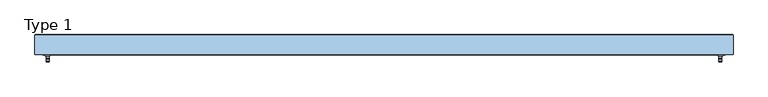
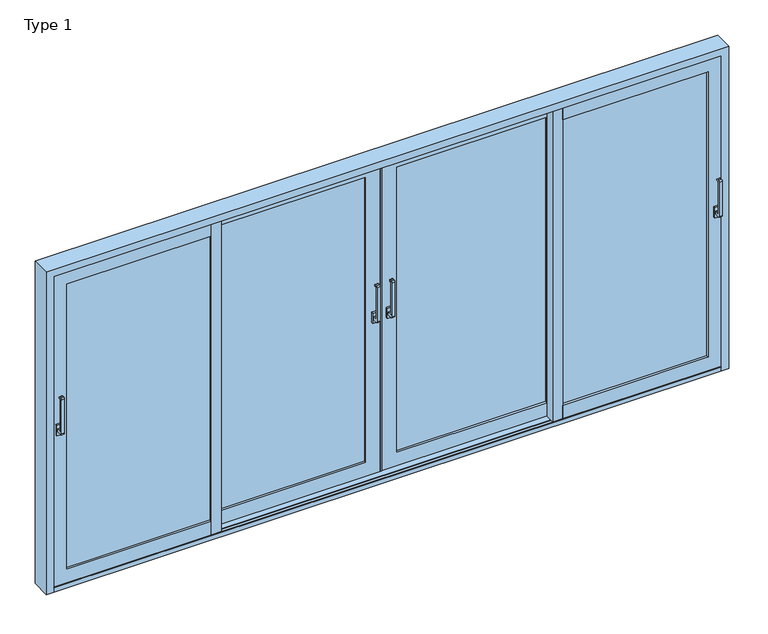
"""IFC4 building model written with IfcOpenShell, lengths in millimetres: window geometry, ETEM_E50_Quadruple_Lift_Sliding_NI_FR : Type 1."""

from ifc_helpers import new_model, si_unit, point, frame, frame_2d, origin, place, context, project, spatial, polyline, circle_curve, trimmed, segment, composite_curve, outline, extrude, faceted_brep, source, transform, mapped, element, save


def type_1_93d10275(model_context):
    return source(origin(), model_context, "Body", "SolidModel", [
        extrude(outline(composite_curve([segment(polyline([(-28.6518056, 1090.0), (-60.2254904, 1090.0)]), True, "CONTINUOUS"), segment(trimmed(circle_curve(frame_2d((-60.2254904, 1098.4263152)), 8.4263152), [point((-60.2254904, 1090.0))], [point((-68.6518056, 1098.4263152))], False, "CARTESIAN"), True, "CONTINUOUS"), segment(polyline([(-68.6518056, 1098.4263152), (-68.6518056, 1331.5736848)]), True, "CONTINUOUS"), segment(trimmed(circle_curve(frame_2d((-60.2254904, 1331.5736848)), 8.4263152), [point((-68.6518056, 1331.5736848))], [point((-60.2254904, 1340.0))], False, "CARTESIAN"), True, "CONTINUOUS"), segment(polyline([(-60.2254904, 1340.0), (-48.6518056, 1340.0)]), True, "CONTINUOUS"), segment(trimmed(circle_curve(frame_2d((-48.6518056, 1335.0)), 5.0), [point((-48.6518056, 1340.0))], [point((-48.6518056, 1330.0))], False, "CARTESIAN"), True, "CONTINUOUS"), segment(polyline([(-48.6518056, 1330.0), (-55.1162717, 1330.0)]), True, "CONTINUOUS"), segment(trimmed(circle_curve(frame_2d((-55.1162717, 1326.4644661)), 3.5355339), [point((-55.1162717, 1330.0))], [point((-58.6518056, 1326.4644661))], True, "CARTESIAN"), True, "CONTINUOUS"), segment(polyline([(-58.6518056, 1326.4644661), (-58.6518056, 1113.5355339)]), True, "CONTINUOUS"), segment(trimmed(circle_curve(frame_2d((-55.1162717, 1113.5355339)), 3.5355339), [point((-58.6518056, 1113.5355339))], [point((-55.1162717, 1110.0))], True, "CARTESIAN"), True, "CONTINUOUS"), segment(polyline([(-55.1162717, 1110.0), (-28.6518056, 1110.0), (-28.6518056, 1090.0)]), True, "CONTINUOUS")], self_intersect=False)), frame((2109.999965, 0.0, 0.0), z_axis=(1.0, 0.0, 0.0), x_axis=(0.0, 1.0, 0.0)), (0.0, 0.0, 1.0), 20.0),
        extrude(outline(polyline([(2104.999965, -28.6518056), (2104.999965, -15.6518056), (2134.999965, -15.6518056), (2134.999965, -28.6518056), (2104.999965, -28.6518056)])), frame((0.0, 0.0, 1065.0), z_axis=(0.0, 0.0, 1.0), x_axis=(1.0, 0.0, 0.0)), (0.0, 0.0, 1.0), 70.0),
        extrude(outline(composite_curve([segment(polyline([(-28.6518056, 1090.0), (-60.2254904, 1090.0)]), True, "CONTINUOUS"), segment(trimmed(circle_curve(frame_2d((-60.2254904, 1098.4263152)), 8.4263152), [point((-60.2254904, 1090.0))], [point((-68.6518056, 1098.4263152))], False, "CARTESIAN"), True, "CONTINUOUS"), segment(polyline([(-68.6518056, 1098.4263152), (-68.6518056, 1331.5736848)]), True, "CONTINUOUS"), segment(trimmed(circle_curve(frame_2d((-60.2254904, 1331.5736848)), 8.4263152), [point((-68.6518056, 1331.5736848))], [point((-60.2254904, 1340.0))], False, "CARTESIAN"), True, "CONTINUOUS"), segment(polyline([(-60.2254904, 1340.0), (-48.6518056, 1340.0)]), True, "CONTINUOUS"), segment(trimmed(circle_curve(frame_2d((-48.6518056, 1335.0)), 5.0), [point((-48.6518056, 1340.0))], [point((-48.6518056, 1330.0))], False, "CARTESIAN"), True, "CONTINUOUS"), segment(polyline([(-48.6518056, 1330.0), (-55.1162717, 1330.0)]), True, "CONTINUOUS"), segment(trimmed(circle_curve(frame_2d((-55.1162717, 1326.4644661)), 3.5355339), [point((-55.1162717, 1330.0))], [point((-58.6518056, 1326.4644661))], True, "CARTESIAN"), True, "CONTINUOUS"), segment(polyline([(-58.6518056, 1326.4644661), (-58.6518056, 1113.5355339)]), True, "CONTINUOUS"), segment(trimmed(circle_curve(frame_2d((-55.1162717, 1113.5355339)), 3.5355339), [point((-58.6518056, 1113.5355339))], [point((-55.1162717, 1110.0))], True, "CARTESIAN"), True, "CONTINUOUS"), segment(polyline([(-55.1162717, 1110.0), (-28.6518056, 1110.0), (-28.6518056, 1090.0)]), True, "CONTINUOUS")], self_intersect=False)), frame((-2129.999965, 0.0, 0.0), z_axis=(1.0, 0.0, 0.0), x_axis=(0.0, 1.0, 0.0)), (0.0, 0.0, 1.0), 20.0),
        extrude(outline(polyline([(-2134.999965, -28.6518056), (-2134.999965, -15.6518056), (-2104.999965, -15.6518056), (-2104.999965, -28.6518056), (-2134.999965, -28.6518056)])), frame((0.0, 0.0, 1065.0), z_axis=(0.0, 0.0, 1.0), x_axis=(1.0, 0.0, 0.0)), (0.0, 0.0, 1.0), 70.0),
        extrude(outline(composite_curve([segment(polyline([(36.3364319, 1090.0), (4.7627471, 1090.0)]), True, "CONTINUOUS"), segment(trimmed(circle_curve(frame_2d((4.7627471, 1098.4263152)), 8.4263152), [point((4.7627471, 1090.0))], [point((-3.6635681, 1098.4263152))], False, "CARTESIAN"), True, "CONTINUOUS"), segment(polyline([(-3.6635681, 1098.4263152), (-3.6635681, 1331.5736848)]), True, "CONTINUOUS"), segment(trimmed(circle_curve(frame_2d((4.7627471, 1331.5736848)), 8.4263152), [point((-3.6635681, 1331.5736848))], [point((4.7627471, 1340.0))], False, "CARTESIAN"), True, "CONTINUOUS"), segment(polyline([(4.7627471, 1340.0), (16.3364319, 1340.0)]), True, "CONTINUOUS"), segment(trimmed(circle_curve(frame_2d((16.3364319, 1335.0)), 5.0), [point((16.3364319, 1340.0))], [point((16.3364319, 1330.0))], False, "CARTESIAN"), True, "CONTINUOUS"), segment(polyline([(16.3364319, 1330.0), (9.8719658, 1330.0)]), True, "CONTINUOUS"), segment(trimmed(circle_curve(frame_2d((9.8719658, 1326.4644661)), 3.5355339), [point((9.8719658, 1330.0))], [point((6.3364319, 1326.4644661))], True, "CARTESIAN"), True, "CONTINUOUS"), segment(polyline([(6.3364319, 1326.4644661), (6.3364319, 1113.5355339)]), True, "CONTINUOUS"), segment(trimmed(circle_curve(frame_2d((9.8719658, 1113.5355339)), 3.5355339), [point((6.3364319, 1113.5355339))], [point((9.8719658, 1110.0))], True, "CARTESIAN"), True, "CONTINUOUS"), segment(polyline([(9.8719658, 1110.0), (36.3364319, 1110.0), (36.3364319, 1090.0)]), True, "CONTINUOUS")], self_intersect=False)), frame((-57.5, 0.0, 0.0), z_axis=(1.0, 0.0, 0.0), x_axis=(0.0, 1.0, 0.0)), (0.0, 0.0, 1.0), 20.0),
        extrude(outline(polyline([(-62.5, 36.3364319), (-62.5, 49.3364319), (-32.5, 49.3364319), (-32.5, 36.3364319), (-62.5, 36.3364319)])), frame((0.0, 0.0, 1065.0), z_axis=(0.0, 0.0, 1.0), x_axis=(1.0, 0.0, 0.0)), (0.0, 0.0, 1.0), 70.0),
        extrude(outline(composite_curve([segment(polyline([(36.3364319, 1090.0), (4.7627471, 1090.0)]), True, "CONTINUOUS"), segment(trimmed(circle_curve(frame_2d((4.7627471, 1098.4263152)), 8.4263152), [point((4.7627471, 1090.0))], [point((-3.6635681, 1098.4263152))], False, "CARTESIAN"), True, "CONTINUOUS"), segment(polyline([(-3.6635681, 1098.4263152), (-3.6635681, 1331.5736848)]), True, "CONTINUOUS"), segment(trimmed(circle_curve(frame_2d((4.7627471, 1331.5736848)), 8.4263152), [point((-3.6635681, 1331.5736848))], [point((4.7627471, 1340.0))], False, "CARTESIAN"), True, "CONTINUOUS"), segment(polyline([(4.7627471, 1340.0), (16.3364319, 1340.0)]), True, "CONTINUOUS"), segment(trimmed(circle_curve(frame_2d((16.3364319, 1335.0)), 5.0), [point((16.3364319, 1340.0))], [point((16.3364319, 1330.0))], False, "CARTESIAN"), True, "CONTINUOUS"), segment(polyline([(16.3364319, 1330.0), (9.8719658, 1330.0)]), True, "CONTINUOUS"), segment(trimmed(circle_curve(frame_2d((9.8719658, 1326.4644661)), 3.5355339), [point((9.8719658, 1330.0))], [point((6.3364319, 1326.4644661))], True, "CARTESIAN"), True, "CONTINUOUS"), segment(polyline([(6.3364319, 1326.4644661), (6.3364319, 1113.5355339)]), True, "CONTINUOUS"), segment(trimmed(circle_curve(frame_2d((9.8719658, 1113.5355339)), 3.5355339), [point((6.3364319, 1113.5355339))], [point((9.8719658, 1110.0))], True, "CARTESIAN"), True, "CONTINUOUS"), segment(polyline([(9.8719658, 1110.0), (36.3364319, 1110.0), (36.3364319, 1090.0)]), True, "CONTINUOUS")], self_intersect=False)), frame((37.5, 0.0, 0.0), z_axis=(1.0, 0.0, 0.0), x_axis=(0.0, 1.0, 0.0)), (0.0, 0.0, 1.0), 20.0),
        extrude(outline(polyline([(62.5, 36.3364319), (32.5, 36.3364319), (32.5, 49.3364319), (62.5, 49.3364319), (62.5, 36.3364319)])), frame((0.0, 0.0, 1065.0), z_axis=(0.0, 0.0, 1.0), x_axis=(1.0, 0.0, 0.0)), (0.0, 0.0, 1.0), 70.0),
        faceted_brep([(1067.5, 99.3364319, 121.470192), (1067.5, 49.3364319, 121.470192), (1067.5, 49.3364319, 29.970192), (1067.5, 54.0364319, 29.970192), (1067.5, 54.0364319, 59.170192), (1067.5, 94.6364319, 59.170192), (1067.5, 94.6364319, 29.970192), (1067.5, 99.3364319, 29.970192), (1067.5, 99.3364319, 2069.0), (1067.5, 99.3364319, 2160.5), (1067.5, 94.6364319, 2160.5), (1067.5, 94.6364319, 2131.3), (1067.5, 54.0364319, 2131.3), (1067.5, 54.0364319, 2160.5), (1067.5, 49.3364319, 2160.5), (1067.5, 49.3364319, 2069.0), (98.5, 99.3364319, 121.470192), (98.5, 49.3364319, 121.470192), (98.5, 49.3364319, 2069.0), (7.0, 49.3364319, 2160.5), (7.0, 49.3364319, 29.970192), (7.0, 54.0364319, 29.970192), (7.0, 54.0364319, 2160.5), (36.2, 54.0364319, 2131.3), (36.2, 54.0364319, 59.170192), (36.2, 94.6364319, 59.170192), (36.2, 94.6364319, 2131.3), (7.0, 94.6364319, 2160.5), (7.0, 94.6364319, 29.970192), (7.0, 99.3364319, 29.970192), (7.0, 99.3364319, 2160.5), (98.5, 99.3364319, 2069.0)], [[[0, 1, 2, 3, 4, 5, 6, 7]], [[8, 9, 10, 11, 12, 13, 14, 15]], [[1, 0, 16, 17]], [[2, 1, 17, 18, 15, 14, 19, 20]], [[3, 2, 20, 21]], [[4, 3, 21, 22, 13, 12, 23, 24]], [[5, 4, 24, 25]], [[6, 5, 25, 26, 11, 10, 27, 28]], [[7, 6, 28, 29]], [[0, 7, 29, 30, 9, 8, 31, 16]], [[17, 16, 31, 18]], [[21, 20, 19, 22]], [[25, 24, 23, 26]], [[29, 28, 27, 30]], [[18, 31, 8, 15]], [[22, 19, 14, 13]], [[26, 23, 12, 11]], [[30, 27, 10, 9]]]),
        extrude(outline(polyline([(98.5, 91.3215999), (1067.5, 91.3215999), (1067.5, 86.3215999), (98.5, 86.3215999), (98.5, 91.3215999)])), frame((0.0, 0.0, 121.470192), z_axis=(0.0, 0.0, 1.0), x_axis=(1.0, 0.0, 0.0)), (0.0, 0.0, 1.0), 1947.529808),
        extrude(outline(polyline([(1132.5, 26.3481944), (2068.999965, 26.3481944), (2068.999965, 21.3481944), (1132.5, 21.3481944), (1132.5, 26.3481944)])), frame((0.0, 0.0, 121.470192), z_axis=(0.0, 0.0, 1.0), x_axis=(1.0, 0.0, 0.0)), (0.0, 0.0, 1.0), 1947.529808),
        extrude(outline(polyline([(98.5, 70.321721), (1067.5, 70.321721), (1067.5, 65.321721), (98.5, 65.321721), (98.5, 70.321721)])), frame((0.0, 0.0, 121.470192), z_axis=(0.0, 0.0, 1.0), x_axis=(1.0, 0.0, 0.0)), (0.0, 0.0, 1.0), 1947.529808),
        extrude(outline(polyline([(1132.5, 5.3481944), (2068.999965, 5.3481944), (2068.999965, 0.3481944), (1132.5, 0.3481944), (1132.5, 5.3481944)])), frame((0.0, 0.0, 121.470192), z_axis=(0.0, 0.0, 1.0), x_axis=(1.0, 0.0, 0.0)), (0.0, 0.0, 1.0), 1947.529808),
        faceted_brep([(-1067.3591001, 99.3364319, 121.470192), (-1067.3591001, 99.3364319, 29.970192), (-1067.3591001, 94.6364319, 29.970192), (-1067.3591001, 94.6364319, 59.170192), (-1067.3591001, 54.0364319, 59.170192), (-1067.3591001, 54.0364319, 29.970192), (-1067.3591001, 49.3364319, 29.970192), (-1067.3591001, 49.3364319, 121.470192), (-1067.3591001, 99.3364319, 2069.0), (-1067.3591001, 49.3364319, 2069.0), (-1067.3591001, 49.3364319, 2160.5), (-1067.3591001, 54.0364319, 2160.5), (-1067.3591001, 54.0364319, 2131.3), (-1067.3591001, 94.6364319, 2131.3), (-1067.3591001, 94.6364319, 2160.5), (-1067.3591001, 99.3364319, 2160.5), (-7.0, 99.3364319, 2160.5), (-7.0, 99.3364319, 29.970192), (-98.5, 99.3364319, 121.470192), (-98.5, 99.3364319, 2069.0), (-7.0, 94.6364319, 29.970192), (-36.2, 94.6364319, 2131.3), (-36.2, 94.6364319, 59.170192), (-7.0, 94.6364319, 2160.5), (-36.2, 54.0364319, 59.170192), (-7.0, 54.0364319, 2160.5), (-7.0, 54.0364319, 29.970192), (-36.2, 54.0364319, 2131.3), (-7.0, 49.3364319, 29.970192), (-98.5, 49.3364319, 2069.0), (-98.5, 49.3364319, 121.470192), (-7.0, 49.3364319, 2160.5)], [[[0, 1, 2, 3, 4, 5, 6, 7]], [[8, 9, 10, 11, 12, 13, 14, 15]], [[8, 15, 16, 17, 1, 0, 18, 19]], [[17, 20, 2, 1]], [[14, 13, 21, 22, 3, 2, 20, 23]], [[22, 24, 4, 3]], [[12, 11, 25, 26, 5, 4, 24, 27]], [[26, 28, 6, 5]], [[10, 9, 29, 30, 7, 6, 28, 31]], [[30, 18, 0, 7]], [[29, 19, 18, 30]], [[25, 31, 28, 26]], [[21, 27, 24, 22]], [[16, 23, 20, 17]], [[9, 8, 19, 29]], [[11, 10, 31, 25]], [[13, 12, 27, 21]], [[15, 14, 23, 16]]]),
        extrude(outline(polyline([(-1067.3591001, 91.3480733), (-98.5, 91.3480733), (-98.5, 86.3480733), (-1067.3591001, 86.3480733), (-1067.3591001, 91.3480733)])), frame((0.0, 0.0, 121.470192), z_axis=(0.0, 0.0, 1.0), x_axis=(1.0, 0.0, 0.0)), (0.0, 0.0, 1.0), 1947.529808),
        extrude(outline(polyline([(-1067.3591001, 70.3481944), (-98.5, 70.3481944), (-98.5, 65.3481944), (-1067.3591001, 65.3481944), (-1067.3591001, 70.3481944)])), frame((0.0, 0.0, 121.470192), z_axis=(0.0, 0.0, 1.0), x_axis=(1.0, 0.0, 0.0)), (0.0, 0.0, 1.0), 1947.529808),
        extrude(outline(polyline([(-1067.3591001, -15.6518056), (-1132.3591001, -15.6518056), (-1132.3591001, 34.3481944), (-1097.3091001, 34.3481944), (-1097.3091001, 41.8740972), (-1100.0, 41.8740972), (-1100.0, 43.7481944), (-1095.4591001, 43.7481944), (-1095.4591001, 39.0481944), (-1084.1091001, 39.0481944), (-1084.1091001, 45.3481944), (-1067.3591001, 45.3481944), (-1067.3591001, -15.6518056)])), frame((0.0, 0.0, 29.970192), z_axis=(0.0, 0.0, 1.0), x_axis=(1.0, 0.0, 0.0)), (0.0, 0.0, 1.0), 2130.529808),
        extrude(outline(polyline([(-2068.999965, 26.3480733), (-1132.3591001, 26.3480733), (-1132.3591001, 21.3480733), (-2068.999965, 21.3480733), (-2068.999965, 26.3480733)])), frame((0.0, 0.0, 121.470192), z_axis=(0.0, 0.0, 1.0), x_axis=(1.0, 0.0, 0.0)), (0.0, 0.0, 1.0), 1947.529808),
        extrude(outline(polyline([(-2068.999965, 5.3481944), (-1132.3591001, 5.3481944), (-1132.3591001, 0.3481944), (-2068.999965, 0.3481944), (-2068.999965, 5.3481944)])), frame((0.0, 0.0, 121.470192), z_axis=(0.0, 0.0, 1.0), x_axis=(1.0, 0.0, 0.0)), (0.0, 0.0, 1.0), 1947.529808),
        extrude(outline(polyline([(3.5, 58.3364319), (3.5, 49.3364319), (-7.0, 49.3364319), (-7.0, 99.3364319), (3.5, 99.3364319), (3.5, 90.3364319), (16.0, 90.3364319), (16.0, 58.3364319), (3.5, 58.3364319)])), frame((0.0, 0.0, 29.9890213), z_axis=(0.0, 0.0, 1.0), x_axis=(1.0, 0.0, 0.0)), (0.0, 0.0, 1.0), 2130.4921495),
        faceted_brep([(1132.5, 34.3481944, 121.470192), (1132.5, 34.3481944, 29.970192), (1132.5, 29.6481944, 29.970192), (1132.5, 29.6481944, 59.170192), (1132.5, -10.9518056, 59.170192), (1132.5, -10.9518056, 29.970192), (1132.5, -15.6518056, 29.970192), (1132.5, -15.6518056, 121.470192), (1132.5, 34.3481944, 2069.0), (1132.5, -15.6518056, 2069.0), (1132.5, -15.6518056, 2160.5), (1132.5, -10.9518056, 2160.5), (1132.5, -10.9518056, 2131.3), (1132.5, 29.6481944, 2131.3), (1132.5, 29.6481944, 2160.5), (1132.5, 34.3481944, 2160.5), (2160.499965, 34.3481944, 2160.5), (2160.499965, 34.3481944, 29.970192), (2068.999965, 34.3481944, 121.470192), (2068.999965, 34.3481944, 2069.0), (2160.499965, 29.6481944, 29.970192), (2131.299965, 29.6481944, 2131.3), (2131.299965, 29.6481944, 59.170192), (2160.499965, 29.6481944, 2160.5), (2131.299965, -10.9518056, 59.170192), (2160.499965, -10.9518056, 2160.5), (2160.499965, -10.9518056, 29.970192), (2131.299965, -10.9518056, 2131.3), (2160.499965, -15.6518056, 29.970192), (2068.999965, -15.6518056, 2069.0), (2068.999965, -15.6518056, 121.470192), (2160.499965, -15.6518056, 2160.5)], [[[0, 1, 2, 3, 4, 5, 6, 7]], [[8, 9, 10, 11, 12, 13, 14, 15]], [[8, 15, 16, 17, 1, 0, 18, 19]], [[17, 20, 2, 1]], [[14, 13, 21, 22, 3, 2, 20, 23]], [[22, 24, 4, 3]], [[12, 11, 25, 26, 5, 4, 24, 27]], [[26, 28, 6, 5]], [[10, 9, 29, 30, 7, 6, 28, 31]], [[30, 18, 0, 7]], [[29, 19, 18, 30]], [[25, 31, 28, 26]], [[21, 27, 24, 22]], [[16, 23, 20, 17]], [[9, 8, 19, 29]], [[11, 10, 31, 25]], [[13, 12, 27, 21]], [[15, 14, 23, 16]]]),
        faceted_brep([(-1132.3591001, 34.3481944, 121.470192), (-1132.3591001, -15.6518056, 121.470192), (-1132.3591001, -15.6518056, 29.970192), (-1132.3591001, -10.9518056, 29.970192), (-1132.3591001, -10.9518056, 59.170192), (-1132.3591001, 29.6481944, 59.170192), (-1132.3591001, 29.6481944, 29.970192), (-1132.3591001, 34.3481944, 29.970192), (-1132.3591001, 34.3481944, 2069.0), (-1132.3591001, 34.3481944, 2160.5), (-1132.3591001, 29.6481944, 2160.5), (-1132.3591001, 29.6481944, 2131.3), (-1132.3591001, -10.9518056, 2131.3), (-1132.3591001, -10.9518056, 2160.5), (-1132.3591001, -15.6518056, 2160.5), (-1132.3591001, -15.6518056, 2069.0), (-2068.999965, 34.3481944, 121.470192), (-2068.999965, -15.6518056, 121.470192), (-2160.499965, -15.6518056, 2160.5), (-2160.499965, -15.6518056, 29.970192), (-2068.999965, -15.6518056, 2069.0), (-2160.499965, -10.9518056, 29.970192), (-2131.299965, -10.9518056, 2131.3), (-2131.299965, -10.9518056, 59.170192), (-2160.499965, -10.9518056, 2160.5), (-2131.299965, 29.6481944, 59.170192), (-2160.499965, 29.6481944, 2160.5), (-2160.499965, 29.6481944, 29.970192), (-2131.299965, 29.6481944, 2131.3), (-2160.499965, 34.3481944, 29.970192), (-2068.999965, 34.3481944, 2069.0), (-2160.499965, 34.3481944, 2160.5)], [[[0, 1, 2, 3, 4, 5, 6, 7]], [[8, 9, 10, 11, 12, 13, 14, 15]], [[16, 17, 1, 0]], [[15, 14, 18, 19, 2, 1, 17, 20]], [[19, 21, 3, 2]], [[13, 12, 22, 23, 4, 3, 21, 24]], [[23, 25, 5, 4]], [[11, 10, 26, 27, 6, 5, 25, 28]], [[27, 29, 7, 6]], [[9, 8, 30, 16, 0, 7, 29, 31]], [[30, 20, 17, 16]], [[26, 31, 29, 27]], [[22, 28, 25, 23]], [[18, 24, 21, 19]], [[10, 9, 31, 26]], [[12, 11, 28, 22]], [[14, 13, 24, 18]], [[8, 15, 20, 30]]]),
        faceted_brep([(-2151.5, 101.4, 0.0), (-2178.2, 101.4, 0.0), (-2178.2, 78.8481944, 0.0), (-2159.5, 78.8481944, 0.0), (-2159.5, 90.3481944, 0.0), (-2151.5, 90.3481944, 0.0), (-2151.5, 58.3481944, 0.0), (-2159.5, 58.3481944, 0.0), (-2159.5, 69.8481944, 0.0), (-2178.2, 69.8481944, 0.0), (-2178.2, 13.8481944, 0.0), (-2159.5, 13.8481944, 0.0), (-2159.5, 25.3481944, 0.0), (-2151.5, 25.3481944, 0.0), (-2151.5, -6.6518056, 0.0), (-2159.5, -6.6518056, 0.0), (-2159.5, 4.8481944, 0.0), (-2178.2, 4.8481944, 0.0), (-2178.2, -17.6518056, 0.0), (-2151.5, -17.6518056, 0.0), (-2151.5, -21.2518056, 0.0), (-2200.0, -21.2518056, 0.0), (-2200.0, 103.5481944, 0.0), (-2196.5, 103.5481944, 0.0), (-2196.5, 105.0, 0.0), (-2151.5, 105.0, 0.0), (-2151.5, 101.4, 2151.5), (2151.5, 101.4, 2151.5), (2151.5, 101.4, 0.0), (2178.2, 101.4, 0.0), (2178.2, 101.4, 2178.2), (-2178.2, 101.4, 2178.2), (-2196.5, 103.5481944, 2196.5), (-2196.5, 105.0, 2196.5), (2196.5, 105.0, 2196.5), (2196.5, 105.0, 0.0), (2151.5, 105.0, 0.0), (2151.5, 105.0, 2151.5), (-2151.5, 105.0, 2151.5), (2196.5, 103.5481944, 0.0), (2200.0, 103.5481944, 0.0), (2200.0, -21.2518056, 0.0), (2151.5, -21.2518056, 0.0), (2151.5, -17.6518056, 0.0), (2178.2, -17.6518056, 0.0), (2178.2, 4.8481944, 0.0), (2159.5, 4.8481944, 0.0), (2159.5, -6.6518056, 0.0), (2151.5, -6.6518056, 0.0), (2151.5, 25.3481944, 0.0), (2159.5, 25.3481944, 0.0), (2159.5, 13.8481944, 0.0), (2178.2, 13.8481944, 0.0), (2178.2, 69.8481944, 0.0), (2159.5, 69.8481944, 0.0), (2159.5, 58.3481944, 0.0), (2151.5, 58.3481944, 0.0), (2151.5, 90.3481944, 0.0), (2159.5, 90.3481944, 0.0), (2159.5, 78.8481944, 0.0), (2178.2, 78.8481944, 0.0), (2196.5, 103.5481944, 2196.5), (2159.5, 90.3481944, 2159.5), (2159.5, 78.8481944, 2159.5), (2151.5, 58.3481944, 2151.5), (2151.5, 90.3481944, 2151.5), (2159.5, 69.8481944, 2159.5), (2159.5, 58.3481944, 2159.5), (2178.2, 13.8481944, 2178.2), (2178.2, 69.8481944, 2178.2), (2159.5, 25.3481944, 2159.5), (2159.5, 13.8481944, 2159.5), (2151.5, -6.6518056, 2151.5), (2151.5, 25.3481944, 2151.5), (2159.5, 4.8481944, 2159.5), (2159.5, -6.6518056, 2159.5), (2178.2, -17.6518056, 2178.2), (2178.2, 4.8481944, 2178.2), (2151.5, -21.2518056, 2151.5), (2151.5, -17.6518056, 2151.5), (-2159.5, 78.8481944, 2159.5), (-2159.5, 90.3481944, 2159.5), (-2151.5, 90.3481944, 2151.5), (-2151.5, 58.3481944, 2151.5), (-2159.5, 58.3481944, 2159.5), (-2159.5, 69.8481944, 2159.5), (-2178.2, 69.8481944, 2178.2), (-2178.2, 13.8481944, 2178.2), (-2159.5, 13.8481944, 2159.5), (-2159.5, 25.3481944, 2159.5), (-2151.5, 25.3481944, 2151.5), (-2151.5, -6.6518056, 2151.5), (-2159.5, -6.6518056, 2159.5), (-2159.5, 4.8481944, 2159.5), (-2178.2, 4.8481944, 2178.2), (-2178.2, -17.6518056, 2178.2), (-2151.5, -17.6518056, 2151.5), (-2151.5, -21.2518056, 2151.5), (2200.0, 103.5481944, 2200.0), (2200.0, -21.2518056, 2200.0), (-2200.0, -21.2518056, 2200.0), (-2200.0, 103.5481944, 2200.0), (2178.2, 78.8481944, 2178.2), (-2178.2, 78.8481944, 2178.2)], [[[0, 1, 2, 3, 4, 5, 6, 7, 8, 9, 10, 11, 12, 13, 14, 15, 16, 17, 18, 19, 20, 21, 22, 23, 24, 25]], [[1, 0, 26, 27, 28, 29, 30, 31]], [[24, 23, 32, 33]], [[25, 24, 33, 34, 35, 36, 37, 38]], [[0, 25, 38, 26]], [[28, 36, 35, 39, 40, 41, 42, 43, 44, 45, 46, 47, 48, 49, 50, 51, 52, 53, 54, 55, 56, 57, 58, 59, 60, 29]], [[36, 28, 27, 37]], [[39, 35, 34, 61]], [[61, 34, 33, 32]], [[37, 27, 26, 38]], [[59, 58, 62, 63]], [[57, 56, 64, 65]], [[55, 54, 66, 67]], [[53, 52, 68, 69]], [[51, 50, 70, 71]], [[49, 48, 72, 73]], [[47, 46, 74, 75]], [[45, 44, 76, 77]], [[43, 42, 78, 79]], [[4, 3, 80, 81]], [[6, 5, 82, 83]], [[8, 7, 84, 85]], [[10, 9, 86, 87]], [[12, 11, 88, 89]], [[14, 13, 90, 91]], [[16, 15, 92, 93]], [[18, 17, 94, 95]], [[20, 19, 96, 97]], [[63, 62, 81, 80]], [[65, 64, 83, 82]], [[67, 66, 85, 84]], [[69, 68, 87, 86]], [[71, 70, 89, 88]], [[73, 72, 91, 90]], [[75, 74, 93, 92]], [[77, 76, 95, 94]], [[79, 78, 97, 96]], [[41, 40, 98, 99]], [[22, 21, 100, 101]], [[29, 60, 102, 30]], [[2, 1, 31, 103]], [[103, 31, 30, 102]], [[99, 98, 101, 100]], [[3, 2, 103, 102, 60, 59, 63, 80]], [[5, 4, 81, 62, 58, 57, 65, 82]], [[7, 6, 83, 64, 56, 55, 67, 84]], [[9, 8, 85, 66, 54, 53, 69, 86]], [[11, 10, 87, 68, 52, 51, 71, 88]], [[13, 12, 89, 70, 50, 49, 73, 90]], [[15, 14, 91, 72, 48, 47, 75, 92]], [[17, 16, 93, 74, 46, 45, 77, 94]], [[19, 18, 95, 76, 44, 43, 79, 96]], [[21, 20, 97, 78, 42, 41, 99, 100]], [[98, 40, 39, 61, 32, 23, 22, 101]]]),
        extrude(outline(polyline([(-1132.3591001, 99.3364319), (-1067.3591001, 99.3364319), (-1067.3591001, 49.3364319), (-1102.4091001, 49.3364319), (-1102.4091001, 41.8740972), (-1100.0, 41.8740972), (-1100.0, 39.9481944), (-1104.2591001, 39.9481944), (-1104.2591001, 44.6364319), (-1115.6091001, 44.6364319), (-1115.6091001, 38.3364319), (-1132.3591001, 38.3364319), (-1132.3591001, 99.3364319)])), frame((0.0, 0.0, 29.970192), z_axis=(0.0, 0.0, 1.0), x_axis=(1.0, 0.0, 0.0)), (0.0, 0.0, 1.0), 2130.529808),
        extrude(outline(polyline([(1067.5, -15.6518056), (1067.5, 45.3481944), (1084.25, 45.3481944), (1084.25, 39.0481944), (1095.6, 39.0481944), (1095.6, 43.7481944), (1100.0, 43.7481944), (1100.0, 41.8740972), (1097.45, 41.8740972), (1097.45, 34.3481944), (1132.5, 34.3481944), (1132.5, -15.6518056), (1067.5, -15.6518056)])), frame((0.0, 0.0, 29.970192), z_axis=(0.0, 0.0, 1.0), x_axis=(1.0, 0.0, 0.0)), (0.0, 0.0, 1.0), 2130.529808),
        extrude(outline(polyline([(1132.5, 99.3481944), (1132.5, 38.3481944), (1115.75, 38.3481944), (1115.75, 44.6481944), (1104.4, 44.6481944), (1104.4, 39.9481944), (1100.0, 39.9481944), (1100.0, 41.8740972), (1102.55, 41.8740972), (1102.55, 49.3481944), (1067.5, 49.3481944), (1067.5, 99.3481944), (1132.5, 99.3481944)])), frame((0.0, 0.0, 29.970192), z_axis=(0.0, 0.0, 1.0), x_axis=(1.0, 0.0, 0.0)), (0.0, 0.0, 1.0), 2130.529808),
        faceted_brep([(-2178.2, 100.7481944, 0.0), (2178.2, 100.7481944, 0.0), (2178.2, 78.8481944, 0.0), (2159.5, 78.8481944, 0.0), (2159.5, 90.3481944, 0.0), (2151.5, 90.3481944, 0.0), (2151.5, 58.3481944, 0.0), (2159.5, 58.3481944, 0.0), (2159.5, 69.8481944, 0.0), (2178.2, 69.8481944, 0.0), (2178.2, 13.8481944, 0.0), (2159.5, 13.8481944, 0.0), (2159.5, 25.3481944, 0.0), (2151.5, 25.3481944, 0.0), (2151.5, -6.6518056, 0.0), (2159.5, -6.6518056, 0.0), (2159.5, 4.8481944, 0.0), (2178.2, 4.8481944, 0.0), (2178.2, -17.4518056, 0.0), (2151.5, -17.4518056, 0.0), (2151.5, -21.2518056, 0.0), (-2151.5, -21.2518056, 0.0), (-2151.5, -17.4518056, 0.0), (-2178.2, -17.4518056, 0.0), (-2178.2, 4.8481944, 0.0), (-2159.5, 4.8481944, 0.0), (-2159.5, -6.6518056, 0.0), (-2151.5, -6.6518056, 0.0), (-2151.5, 25.3481944, 0.0), (-2159.5, 25.3481944, 0.0), (-2159.5, 13.8481944, 0.0), (-2178.2, 13.8481944, 0.0), (-2178.2, 69.8481944, 0.0), (-2159.5, 69.8481944, 0.0), (-2159.5, 58.3481944, 0.0), (-2151.5, 58.3481944, 0.0), (-2151.5, 90.3481944, 0.0), (-2159.5, 90.3481944, 0.0), (-2159.5, 78.8481944, 0.0), (-2178.2, 78.8481944, 0.0), (2151.5, -21.2518056, 29.970192), (-2151.5, -21.2518056, 29.970192), (2151.5, -17.4518056, 29.970192), (-2151.5, -17.4518056, 29.970192), (2151.5, -17.4518056, 25.0), (-2151.5, -17.4518056, 25.0), (2178.2, -17.4518056, 25.0), (2178.2, 4.8481944, 25.0), (2159.5, 4.8481944, 25.0), (2159.5, -6.6518056, 25.0), (2151.5, -6.6518056, 25.0), (2151.5, 6.8481944, 25.0), (-2151.5, 6.8481944, 25.0), (-2151.5, -6.6518056, 25.0), (-2159.5, -6.6518056, 25.0), (-2159.5, 4.8481944, 25.0), (-2178.2, 4.8481944, 25.0), (-2178.2, -17.4518056, 25.0), (2151.5, 6.8481944, 21.1999997), (-2151.5, 6.8481944, 21.1999997), (2151.5, 11.8481944, 21.1999997), (-2151.5, 11.8481944, 21.1999997), (2151.5, 11.8481944, 25.0), (-2151.5, 11.8481944, 25.0), (2151.5, 25.3481944, 25.0), (2159.5, 25.3481944, 25.0), (2159.5, 13.8481944, 25.0), (2178.2, 13.8481944, 25.0), (2178.2, 69.8481944, 25.0), (2159.5, 69.8481944, 25.0), (2159.5, 58.3481944, 25.0), (2151.5, 58.3481944, 25.0), (2151.5, 71.8481944, 25.0), (-2151.5, 71.8481944, 25.0), (-2151.5, 58.3481944, 25.0), (-2159.5, 58.3481944, 25.0), (-2159.5, 69.8481944, 25.0), (-2178.2, 69.8481944, 25.0), (-2178.2, 13.8481944, 25.0), (-2159.5, 13.8481944, 25.0), (-2159.5, 25.3481944, 25.0), (-2151.5, 25.3481944, 25.0), (2151.5, 71.8481944, 21.1999997), (-2151.5, 71.8481944, 21.1999997), (2151.5, 76.8481944, 21.1999997), (-2151.5, 76.8481944, 21.1999997), (2151.5, 76.8481944, 25.0), (-2151.5, 76.8481944, 25.0), (2151.5, 90.3481944, 25.0), (2159.5, 90.3481944, 25.0), (2159.5, 78.8481944, 25.0), (2178.2, 78.8481944, 25.0), (2178.2, 100.7481944, 25.0), (-2178.2, 100.7481944, 25.0), (-2178.2, 78.8481944, 25.0), (-2159.5, 78.8481944, 25.0), (-2159.5, 90.3481944, 25.0), (-2151.5, 90.3481944, 25.0)], [[[0, 1, 2, 3, 4, 5, 6, 7, 8, 9, 10, 11, 12, 13, 14, 15, 16, 17, 18, 19, 20, 21, 22, 23, 24, 25, 26, 27, 28, 29, 30, 31, 32, 33, 34, 35, 36, 37, 38, 39]], [[21, 20, 40, 41]], [[41, 40, 42, 43]], [[43, 42, 44, 45]], [[45, 44, 46, 47, 48, 49, 50, 51, 52, 53, 54, 55, 56, 57]], [[52, 51, 58, 59]], [[59, 58, 60, 61]], [[61, 60, 62, 63]], [[63, 62, 64, 65, 66, 67, 68, 69, 70, 71, 72, 73, 74, 75, 76, 77, 78, 79, 80, 81]], [[73, 72, 82, 83]], [[83, 82, 84, 85]], [[85, 84, 86, 87]], [[87, 86, 88, 89, 90, 91, 92, 93, 94, 95, 96, 97]], [[1, 0, 93, 92]], [[45, 22, 21, 41, 43]], [[22, 45, 57, 23]], [[23, 57, 56, 24]], [[24, 56, 55, 25]], [[25, 55, 54, 26]], [[26, 54, 53, 27]], [[27, 53, 52, 59, 61, 63, 81, 28]], [[28, 81, 80, 29]], [[29, 80, 79, 30]], [[30, 79, 78, 31]], [[31, 78, 77, 32]], [[32, 77, 76, 33]], [[33, 76, 75, 34]], [[34, 75, 74, 35]], [[35, 74, 73, 83, 85, 87, 97, 36]], [[36, 97, 96, 37]], [[37, 96, 95, 38]], [[38, 95, 94, 39]], [[39, 94, 93, 0]], [[91, 2, 1, 92]], [[2, 91, 90, 3]], [[3, 90, 89, 4]], [[4, 89, 88, 5]], [[5, 88, 86, 84, 82, 72, 71, 6]], [[6, 71, 70, 7]], [[7, 70, 69, 8]], [[8, 69, 68, 9]], [[9, 68, 67, 10]], [[10, 67, 66, 11]], [[11, 66, 65, 12]], [[12, 65, 64, 13]], [[13, 64, 62, 60, 58, 51, 50, 14]], [[14, 50, 49, 15]], [[15, 49, 48, 16]], [[16, 48, 47, 17]], [[46, 18, 17, 47]], [[18, 46, 44, 19]], [[19, 44, 42, 40, 20]]]),
    ])


if __name__ == "__main__":
    model = new_model("IFC4")
    model_context = context("Model", 3, world=origin())
    ifc_project = project(units=[si_unit("LENGTHUNIT", "METRE", prefix="MILLI")], contexts=[model_context])
    site = spatial("IfcSite", under=ifc_project)
    building = spatial("IfcBuilding", under=site)
    placement = place(None, origin())
    type_1_shape = type_1_93d10275(model_context)
    element("IfcWindow", 1, ObjectType="ETEM_E50_Quadruple_Lift_Sliding_NI_FR : Type 1", at=placement, inside=building, context=model_context, shape_type="MappedRepresentation", body=[
        mapped(type_1_shape, transform((0.0, 0.0, 0.0), x_axis=(1.0, 0.0, 0.0), y_axis=(0.0, 1.0, 0.0), z_axis=(0.0, 0.0, 1.0))),
    ])
    save(model, "model.ifc")
